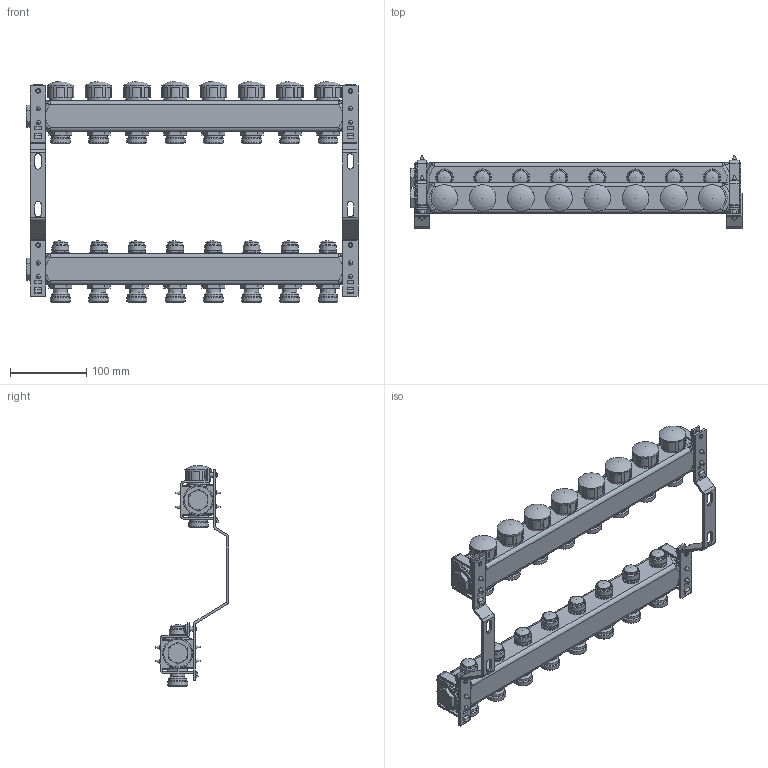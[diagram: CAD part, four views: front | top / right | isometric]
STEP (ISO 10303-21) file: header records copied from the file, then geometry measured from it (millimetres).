
FILE_DESCRIPTION(('STEP AP203'), '1');
FILE_NAME('VTc.582.EMNX.0608', '', ('UNSPECIFIED'), ('UNSPECIFIED'), 'C3D Converter', 'C3D Toolkit', '');
FILE_SCHEMA(('CONFIG_CONTROL_DESIGN'));
Length unit declared in the file: millimetre
Products named in the file (1): -05
Bounding box: 434.2 x 95.7 x 289.2 mm (x, y, z)
Volume: 1745032.6 mm3; surface area: 244050.1 mm2
Topology: 1 solids, 1 shells, 1240 faces, 3344 edges, 2140 vertices
Faces by surface type: plane 704, cylinder 312, cone 96, torus 76, bspline 36, sphere 16
Full cylindrical faces by diameter (mm): 5.4 x16, 6 x8, 12 x4, 18.4 x8, 19.3 x8, 22.9 x8, 23 x8, 23.5 x8, 25.9 x8, 26 x8, 29.5 x8, 34.9 x8, 35.3 x2, 36.5 x2, 39.3 x4
Entity records: 48241 total; most frequent: CARTESIAN_POINT 18012, ORIENTED_EDGE 6192, DIRECTION 6134, EDGE_CURVE 3096, AXIS2_PLACEMENT_3D 2169, VERTEX_POINT 2122, LINE 1796, VECTOR 1796
